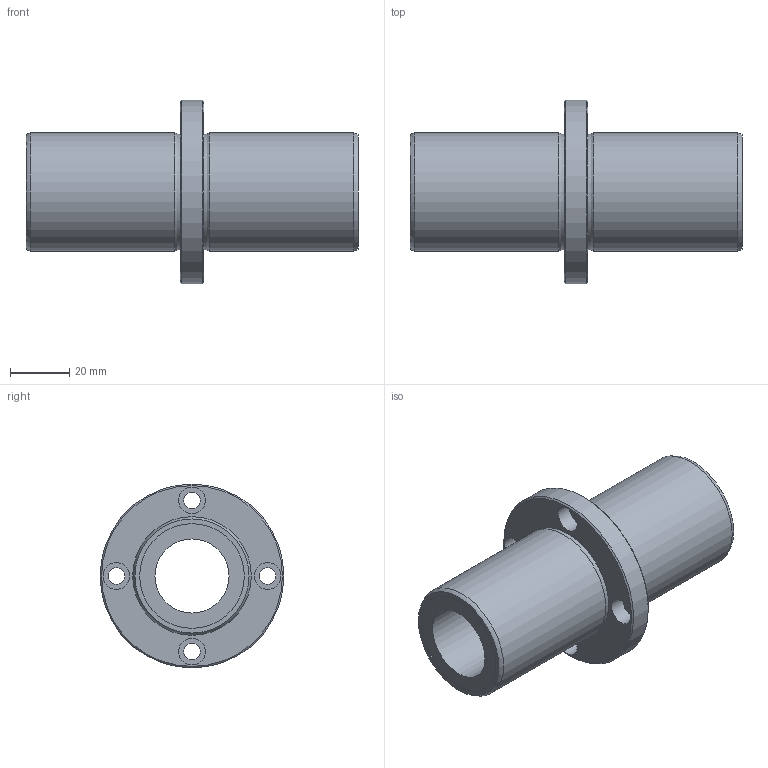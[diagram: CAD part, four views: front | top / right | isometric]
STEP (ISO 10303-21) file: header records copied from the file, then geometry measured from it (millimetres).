
FILE_DESCRIPTION((''),'2;1');
FILE_NAME('D:\製品 (図面)\カタログ用3D\リニアベアリング関連\STEP形式\LFDC\LFDC25.stp','2010-06-03T09:28:04',('Tsuchiya'),(''),'Autodesk Inventor 10','Autodesk Inventor 10','');
FILE_SCHEMA(('AUTOMOTIVE_DESIGN { 1 0 10303 214 1 1 1 1 }'));
Length unit declared in the file: millimetre
Products named in the file (1): LFDC25
Bounding box: 112 x 62 x 62 mm (x, y, z)
Volume: 97824 mm3; surface area: 28955 mm2
Topology: 1 solids, 1 shells, 30 faces, 54 edges, 34 vertices
Faces by surface type: cylinder 14, plane 10, cone 2, torus 2, bspline 2
Full cylindrical faces by diameter (mm): 5.5 x4, 9 x4, 25 x1, 35.3 x2, 40 x2, 62 x1
Entity records: 803 total; most frequent: CARTESIAN_POINT 223, DIRECTION 126, ORIENTED_EDGE 68, EDGE_LOOP 68, AXIS2_PLACEMENT_3D 63, FACE_BOUND 38, VERTEX_POINT 34, CIRCLE 34
